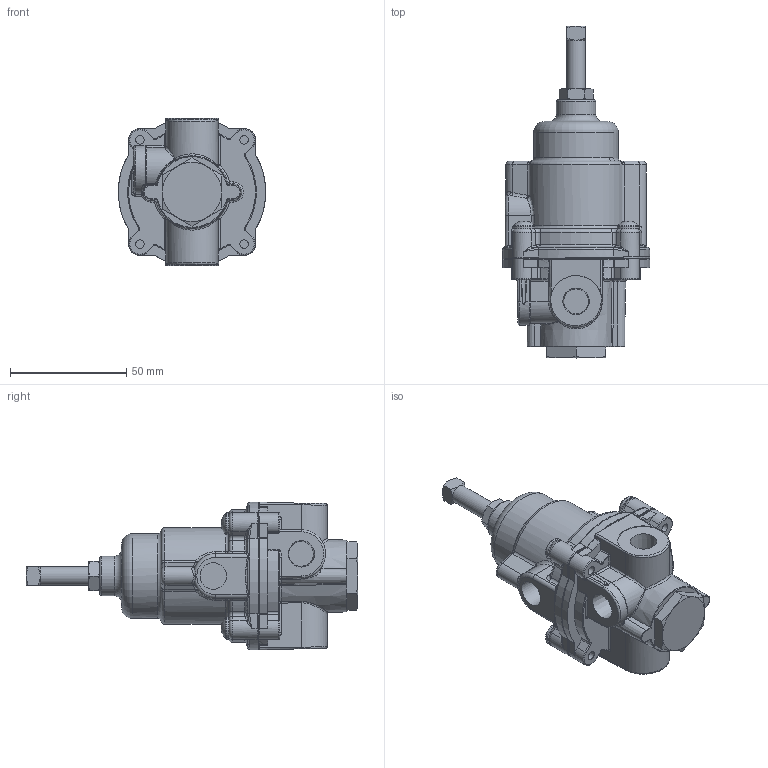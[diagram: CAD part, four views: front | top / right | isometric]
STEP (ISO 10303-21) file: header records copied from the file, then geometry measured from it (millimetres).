
FILE_DESCRIPTION(/* description */ (''),/* implementation_level */ '2;1');
FILE_NAME(/* name */ 'Z:\Models\Other\Bellofram\PL81 for 160A.stp',/* time_stamp */ '2018-01-18T16:09:50-05:00',/* author */ ('Owner'),/* organization */ (''),/* preprocessor_version */ 'ST-DEVELOPER v15.6',/* originating_system */ 'Autodesk Inventor 2015',/* authorisation */ '');
FILE_SCHEMA (('CONFIG_CONTROL_DESIGN'));
Length unit declared in the file: inch
Products named in the file (3): PL81 3D Step File Top; PL81 3D Step File Base; PL81 for 160A
Assembly tree (2 placements, depth 2):
  PL81 for 160A
    PL81 3D Step File Top
    PL81 3D Step File Base
Bounding box: 63.44 x 142.9 x 63.48 mm (x, y, z)
Volume: 173364.9 mm3; surface area: 35735.5 mm2
Topology: 3 solids, 3 shells, 730 faces, 1845 edges, 1125 vertices
Faces by surface type: plane 193, cylinder 191, bspline 138, torus 111, cone 83, sphere 14
Full cylindrical faces by diameter (mm): 3.683 x6, 4.826 x6, 5.08 x4, 5.556 x4, 6.49 x2, 7.938 x1, 9.474 x4, 10.719 x3, 11.379 x1, 17.018 x1, 36.5 x1
Entity records: 26086 total; most frequent: CARTESIAN_POINT 9448, ORIENTED_EDGE 3452, DIRECTION 3445, EDGE_CURVE 1726, AXIS2_PLACEMENT_3D 1481, VERTEX_POINT 1092, EDGE_LOOP 826, CIRCLE 731
